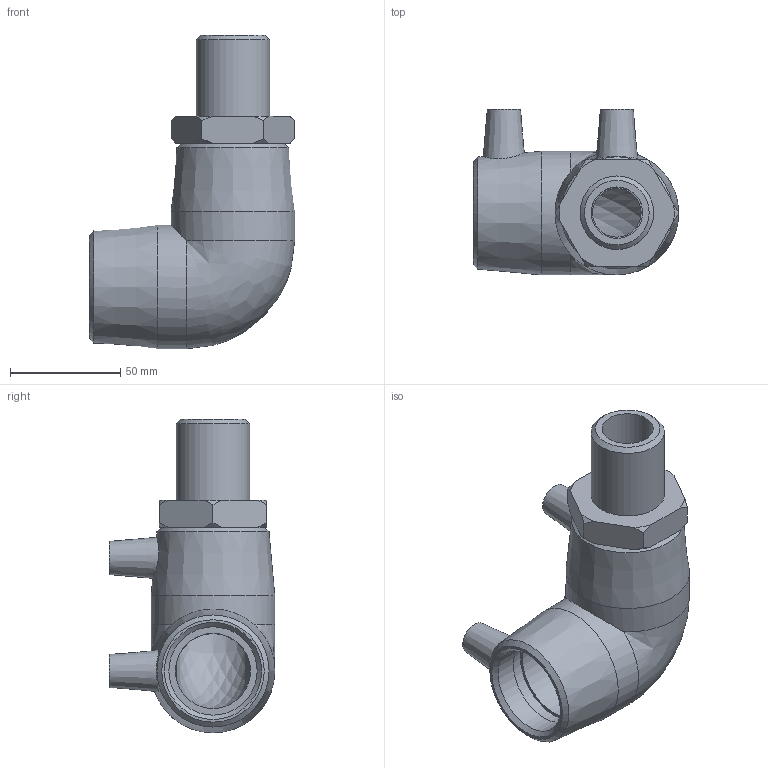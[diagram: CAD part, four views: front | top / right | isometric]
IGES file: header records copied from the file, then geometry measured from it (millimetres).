
Global section: file name: 492504040010N.ipt; native system: Autodesk Inventor 2015; preprocessor: unknown; author: KIM; date: 20200202.122339; units: millimetre
Bounding box: 93 x 75 x 142 mm (x, y, z)
Volume: 223667.8 mm3; surface area: 51480.5 mm2
Topology: 1 solids, 2 shells, 59 faces, 143 edges, 96 vertices
Faces by surface type: plane 22, cone 19, revolution 10, cylinder 7, bspline 1
Full cylindrical faces by diameter (mm): 4 x2, 33.249 x1, 40 x2, 56 x2
